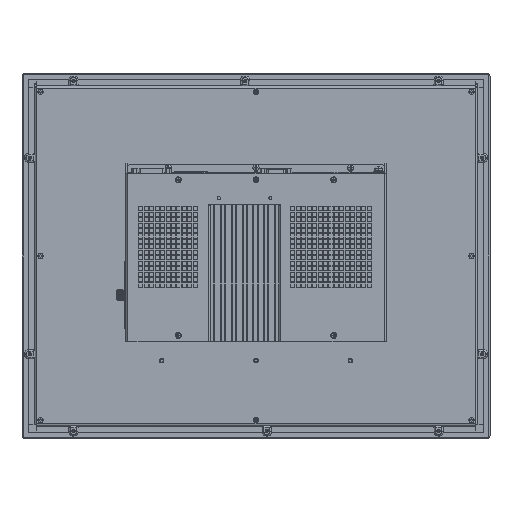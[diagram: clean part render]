
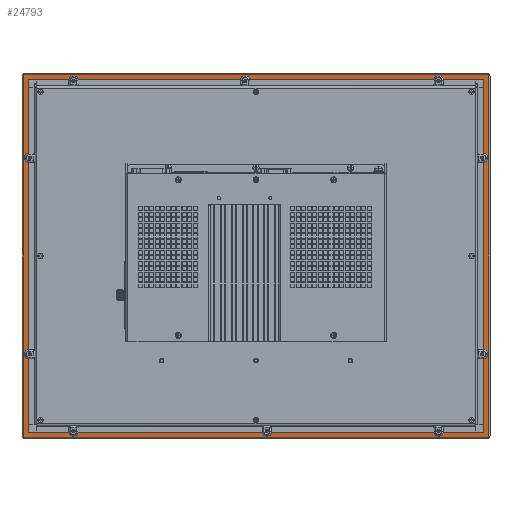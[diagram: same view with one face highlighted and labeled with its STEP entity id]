
A CAD part, front view. The second image highlights one B-rep face of the part: STEP entity #24793.
In plain terms, the highlighted planar face has unit normal (0, -1, 0).
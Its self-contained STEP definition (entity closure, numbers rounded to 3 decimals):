
#22824=CARTESIAN_POINT('',(224.5,-0.5,-164.5));
#22825=DIRECTION('',(0.,1.,0.));
#22826=DIRECTION('',(1.,0.,0.));
#22827=AXIS2_PLACEMENT_3D('',#22824,#22825,#22826);
#22829=DIRECTION('',(-1.,0.,0.));
#22830=VECTOR('',#22829,449.);
#22831=CARTESIAN_POINT('',(224.5,-0.5,-166.5));
#22832=LINE('',#22831,#22830);
#22833=CARTESIAN_POINT('',(-224.5,-0.5,-164.5));
#22834=DIRECTION('',(0.,1.,0.));
#22835=DIRECTION('',(0.,0.,-1.));
#22836=AXIS2_PLACEMENT_3D('',#22833,#22834,#22835);
#22838=DIRECTION('',(0.,0.,1.));
#22839=VECTOR('',#22838,349.);
#22840=CARTESIAN_POINT('',(-226.5,-0.5,-164.5));
#22841=LINE('',#22840,#22839);
#22842=CARTESIAN_POINT('',(-224.5,-0.5,184.5));
#22843=DIRECTION('',(0.,1.,0.));
#22844=DIRECTION('',(-1.,0.,0.));
#22845=AXIS2_PLACEMENT_3D('',#22842,#22843,#22844);
#22847=DIRECTION('',(1.,0.,0.));
#22848=VECTOR('',#22847,449.);
#22849=CARTESIAN_POINT('',(-224.5,-0.5,186.5));
#22850=LINE('',#22849,#22848);
#22851=CARTESIAN_POINT('',(224.5,-0.5,184.5));
#22852=DIRECTION('',(0.,1.,0.));
#22853=DIRECTION('',(0.,0.,1.));
#22854=AXIS2_PLACEMENT_3D('',#22851,#22852,#22853);
#22856=DIRECTION('',(0.,0.,-1.));
#22857=VECTOR('',#22856,349.);
#22858=CARTESIAN_POINT('',(226.5,-0.5,184.5));
#22859=LINE('',#22858,#22857);
#22860=CARTESIAN_POINT('',(220.5,-0.5,-160.5));
#22861=DIRECTION('',(0.,-1.,0.));
#22862=DIRECTION('',(0.,0.,-1.));
#22863=AXIS2_PLACEMENT_3D('',#22860,#22861,#22862);
#22865=DIRECTION('',(0.,0.,1.));
#22866=VECTOR('',#22865,341.);
#22867=CARTESIAN_POINT('',(221.5,-0.5,-160.5));
#22868=LINE('',#22867,#22866);
#22869=CARTESIAN_POINT('',(220.5,-0.5,180.5));
#22870=DIRECTION('',(0.,-1.,0.));
#22871=DIRECTION('',(1.,0.,0.));
#22872=AXIS2_PLACEMENT_3D('',#22869,#22870,#22871);
#22874=DIRECTION('',(-1.,0.,0.));
#22875=VECTOR('',#22874,441.);
#22876=CARTESIAN_POINT('',(220.5,-0.5,181.5));
#22877=LINE('',#22876,#22875);
#22878=CARTESIAN_POINT('',(-220.5,-0.5,180.5));
#22879=DIRECTION('',(0.,-1.,0.));
#22880=DIRECTION('',(0.,0.,1.));
#22881=AXIS2_PLACEMENT_3D('',#22878,#22879,#22880);
#22883=DIRECTION('',(0.,0.,-1.));
#22884=VECTOR('',#22883,341.);
#22885=CARTESIAN_POINT('',(-221.5,-0.5,180.5));
#22886=LINE('',#22885,#22884);
#22887=CARTESIAN_POINT('',(-220.5,-0.5,-160.5));
#22888=DIRECTION('',(0.,-1.,0.));
#22889=DIRECTION('',(-1.,0.,0.));
#22890=AXIS2_PLACEMENT_3D('',#22887,#22888,#22889);
#22892=DIRECTION('',(1.,0.,0.));
#22893=VECTOR('',#22892,441.);
#22894=CARTESIAN_POINT('',(-220.5,-0.5,-161.5));
#22895=LINE('',#22894,#22893);
#23770=CARTESIAN_POINT('',(226.5,-0.5,-164.5));
#23771=CARTESIAN_POINT('',(224.5,-0.5,-166.5));
#23772=VERTEX_POINT('',#23770);
#23773=VERTEX_POINT('',#23771);
#23774=CARTESIAN_POINT('',(226.5,-0.5,184.5));
#23775=VERTEX_POINT('',#23774);
#23776=CARTESIAN_POINT('',(224.5,-0.5,186.5));
#23777=VERTEX_POINT('',#23776);
#23778=CARTESIAN_POINT('',(-224.5,-0.5,186.5));
#23779=VERTEX_POINT('',#23778);
#23780=CARTESIAN_POINT('',(-226.5,-0.5,184.5));
#23781=VERTEX_POINT('',#23780);
#23782=CARTESIAN_POINT('',(-226.5,-0.5,-164.5));
#23783=VERTEX_POINT('',#23782);
#23784=CARTESIAN_POINT('',(-224.5,-0.5,-166.5));
#23785=VERTEX_POINT('',#23784);
#23840=CARTESIAN_POINT('',(220.5,-0.5,-161.5));
#23841=CARTESIAN_POINT('',(221.5,-0.5,-160.5));
#23842=VERTEX_POINT('',#23840);
#23843=VERTEX_POINT('',#23841);
#23844=CARTESIAN_POINT('',(221.5,-0.5,180.5));
#23845=VERTEX_POINT('',#23844);
#23846=CARTESIAN_POINT('',(220.5,-0.5,181.5));
#23847=VERTEX_POINT('',#23846);
#23848=CARTESIAN_POINT('',(-220.5,-0.5,181.5));
#23849=VERTEX_POINT('',#23848);
#23850=CARTESIAN_POINT('',(-221.5,-0.5,180.5));
#23851=VERTEX_POINT('',#23850);
#23852=CARTESIAN_POINT('',(-221.5,-0.5,-160.5));
#23853=VERTEX_POINT('',#23852);
#23854=CARTESIAN_POINT('',(-220.5,-0.5,-161.5));
#23855=VERTEX_POINT('',#23854);
#24752=CARTESIAN_POINT('',(0.,-0.5,0.));
#24753=DIRECTION('',(0.,-1.,0.));
#24754=DIRECTION('',(-1.,0.,0.));
#24755=AXIS2_PLACEMENT_3D('',#24752,#24753,#24754);
#24756=PLANE('',#24755);
#24758=ORIENTED_EDGE('',*,*,#24757,.T.);
#24760=ORIENTED_EDGE('',*,*,#24759,.T.);
#24762=ORIENTED_EDGE('',*,*,#24761,.T.);
#24764=ORIENTED_EDGE('',*,*,#24763,.T.);
#24766=ORIENTED_EDGE('',*,*,#24765,.T.);
#24768=ORIENTED_EDGE('',*,*,#24767,.T.);
#24770=ORIENTED_EDGE('',*,*,#24769,.T.);
#24772=ORIENTED_EDGE('',*,*,#24771,.T.);
#24773=EDGE_LOOP('',(#24758,#24760,#24762,#24764,#24766,#24768,#24770,#24772));
#24774=FACE_OUTER_BOUND('',#24773,.F.);
#24776=ORIENTED_EDGE('',*,*,#24775,.T.);
#24778=ORIENTED_EDGE('',*,*,#24777,.T.);
#24780=ORIENTED_EDGE('',*,*,#24779,.T.);
#24782=ORIENTED_EDGE('',*,*,#24781,.T.);
#24784=ORIENTED_EDGE('',*,*,#24783,.T.);
#24786=ORIENTED_EDGE('',*,*,#24785,.T.);
#24788=ORIENTED_EDGE('',*,*,#24787,.T.);
#24790=ORIENTED_EDGE('',*,*,#24789,.T.);
#24791=EDGE_LOOP('',(#24776,#24778,#24780,#24782,#24784,#24786,#24788,#24790));
#24792=FACE_BOUND('',#24791,.F.);
#22828=CIRCLE('',#22827,2.);
#22837=CIRCLE('',#22836,2.);
#22846=CIRCLE('',#22845,2.);
#22855=CIRCLE('',#22854,2.);
#22864=CIRCLE('',#22863,1.);
#22873=CIRCLE('',#22872,1.);
#22882=CIRCLE('',#22881,1.);
#22891=CIRCLE('',#22890,1.);
#24757=EDGE_CURVE('',#23772,#23773,#22828,.T.);
#24759=EDGE_CURVE('',#23773,#23785,#22832,.T.);
#24761=EDGE_CURVE('',#23785,#23783,#22837,.T.);
#24763=EDGE_CURVE('',#23783,#23781,#22841,.T.);
#24765=EDGE_CURVE('',#23781,#23779,#22846,.T.);
#24767=EDGE_CURVE('',#23779,#23777,#22850,.T.);
#24769=EDGE_CURVE('',#23777,#23775,#22855,.T.);
#24771=EDGE_CURVE('',#23775,#23772,#22859,.T.);
#24775=EDGE_CURVE('',#23842,#23843,#22864,.T.);
#24777=EDGE_CURVE('',#23843,#23845,#22868,.T.);
#24779=EDGE_CURVE('',#23845,#23847,#22873,.T.);
#24781=EDGE_CURVE('',#23847,#23849,#22877,.T.);
#24783=EDGE_CURVE('',#23849,#23851,#22882,.T.);
#24785=EDGE_CURVE('',#23851,#23853,#22886,.T.);
#24787=EDGE_CURVE('',#23853,#23855,#22891,.T.);
#24789=EDGE_CURVE('',#23855,#23842,#22895,.T.);
#24793=ADVANCED_FACE('',(#24774,#24792),#24756,.T.);
